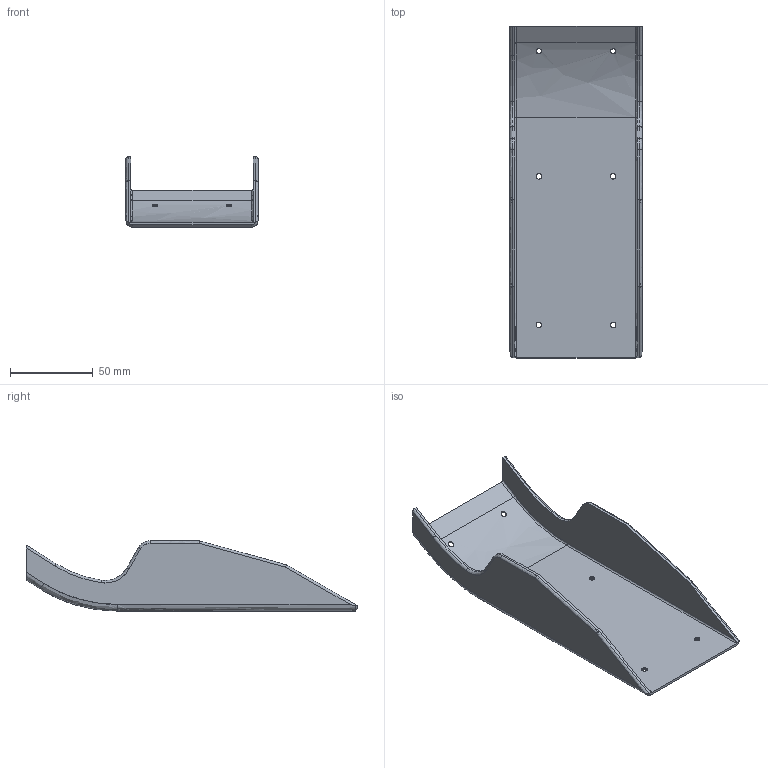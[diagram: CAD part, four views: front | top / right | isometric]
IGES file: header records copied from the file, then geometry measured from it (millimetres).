
Global section: file name: C:\Users\gehrichcr\Documents\1 Drive Backup\Practice\Inspire\V1.5\IGES\Canopy Top V1.5.igs; native system: NX V8.5; preprocessor: SIEMENS PLM Software NX 8.5; date: 20150617.113538; units: millimetre
Bounding box: 80 x 200.91 x 42.5 mm (x, y, z)
Surface area: 53251.5 mm2 (no closed solid volume)
Topology: 0 solids, 0 shells, 83 faces, 545 edges, 521 vertices
Faces by surface type: bspline 83
